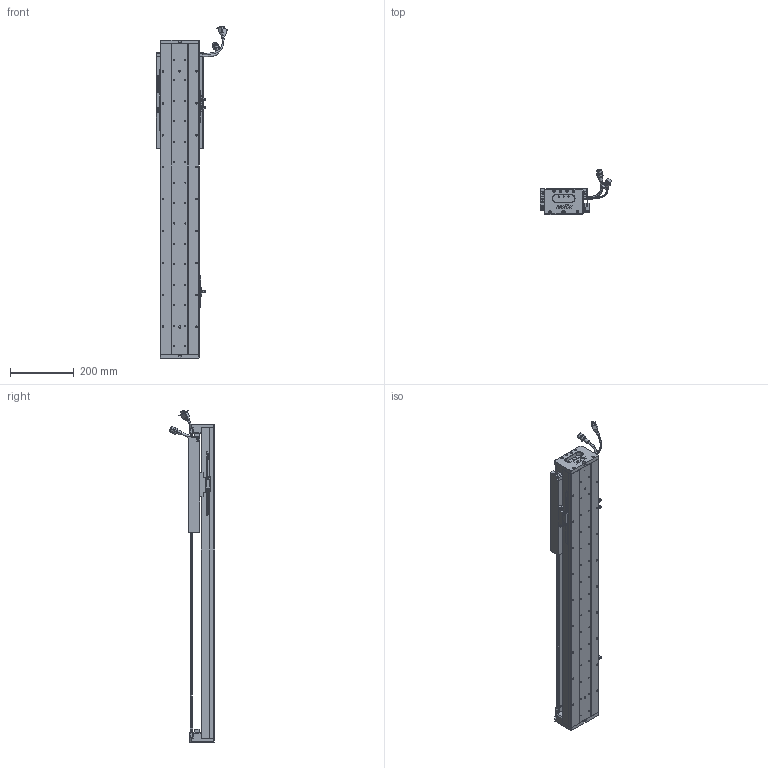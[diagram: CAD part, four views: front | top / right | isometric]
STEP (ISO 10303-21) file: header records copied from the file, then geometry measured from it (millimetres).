
FILE_DESCRIPTION (( 'STEP AP203' ), '1' );
FILE_NAME ('Z4-RY120D-1-L500-B-K.SLDASM_0600.step', '2021-05-17T06:06:18', ( '盈信电脑' ), ( '东莞市道滘镇水果街19号' ), 'SwSTEP 2.0', 'SolidWorks 2016', '' );
FILE_SCHEMA (( 'CONFIG_CONTROL_DESIGN' ));
Length unit declared in the file: millimetre
Products named in the file (37): Z-120詩湍傷裔啣; SCREW-M1.6-1; SCREW-M1.6-2; SCREW-M1.7-1; SEAL-Part-1; LABEL; SCREW-M1.6-3; SCREW-M1.7; 覜茼ん672; Z4-RY120-L500詩湍100mm遵_0600; Z4-RY120D-1-L500-B-K.SLDASM_0600; 120-Z-臏賑輸盄裔(21遴); SCREW-M1.6; SCALE; SEAL; 672嫖萇羲壽假蚾釱; 080黍杅芛假蚾釱21遴; HOLDER0; 140雄赽晤鎢ん堤盄; Z4-RY120-500-倰第菁釱_0600; HARNESS-Part-2; COVER-Part-1; COVER; PSLH080_PSLF2; Z-RY120D詩湍狟揤裔; SCALE-Part-1; HARNESS-Part-1; SHIELDPLATE; 140蚥薯蝶輸; Z4-RY120铝滑块（21款）; Z-RY120D詩湍奻揤裔; SCALE-Part-2; RY100FB-遵嫖萇覜茼え; 榋妏寠巭燃_暯_M2_2; PBU_SHEET; LABEL-Part-1; HARNESS
Assembly tree (43 placements, depth 4):
  Z4-RY120D-1-L500-B-K.SLDASM_0600
    Z4-RY120-500-倰第菁釱_0600
    覜茼ん672  x3
    672嫖萇羲壽假蚾釱  x2
    Z4-RY120铝滑块（21款）
    PSLH080_PSLF2
      SCALE
        SCALE-Part-1
        SCALE-Part-2
      HARNESS
        HARNESS-Part-1
        HARNESS-Part-2
      LABEL
        LABEL-Part-1
      COVER
        COVER-Part-1
      SEAL
        SEAL-Part-1
      榋妏寠巭燃_暯_M2_2
      SHIELDPLATE
      SCREW-M1.7
      SCREW-M1.7-1
      PBU_SHEET
      SCREW-M1.6
      SCREW-M1.6-1
      SCREW-M1.6-2
      SCREW-M1.6-3
      HOLDER0
    080黍杅芛假蚾釱21遴
    120-Z-臏賑輸盄裔(21遴)
    140雄赽晤鎢ん堤盄
    140蚥薯蝶輸  x2
    RY100FB-遵嫖萇覜茼え
    Z-120詩湍傷裔啣  x2
    Z-RY120D詩湍奻揤裔  x2
    Z-RY120D詩湍狟揤裔  x2
    Z4-RY120-L500詩湍100mm遵_0600
Bounding box: 222.88 x 140.94 x 1039 mm (x, y, z)
Volume: 3164712.2 mm3; surface area: 1017213.9 mm2
Topology: 38 solids, 38 shells, 2765 faces, 7434 edges, 4694 vertices
Faces by surface type: cylinder 1256, plane 1113, cone 274, torus 69, bspline 53
Entity records: 82241 total; most frequent: CARTESIAN_POINT 21562, ORIENTED_EDGE 11844, DIRECTION 11746, EDGE_CURVE 5922, AXIS2_PLACEMENT_3D 4300, VERTEX_POINT 3814, VECTOR 3146, LINE 3146
